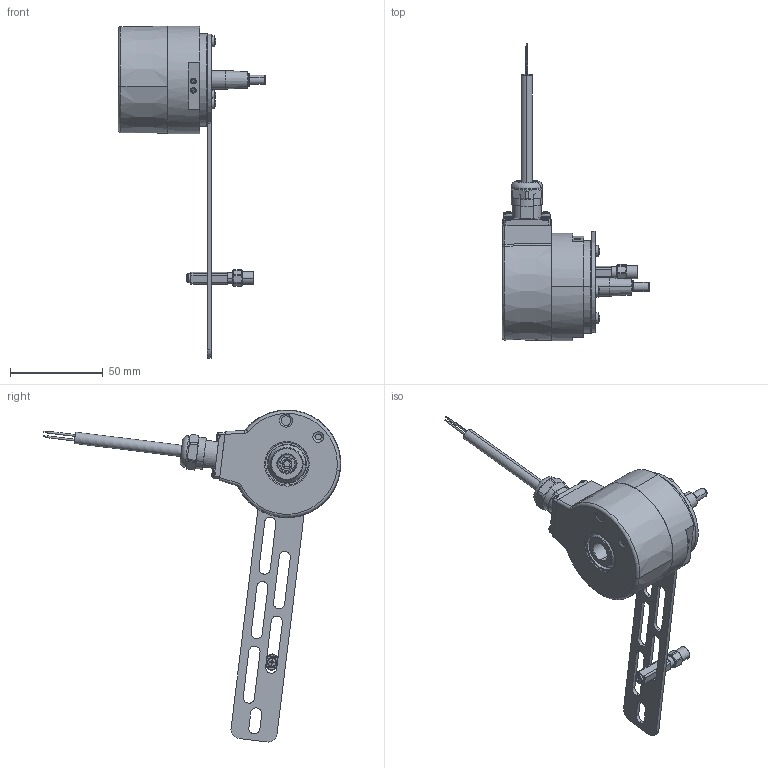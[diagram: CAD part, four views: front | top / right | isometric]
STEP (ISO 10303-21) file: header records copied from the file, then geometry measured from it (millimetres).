
FILE_DESCRIPTION (( 'STEP AP214' ), '1' );
FILE_NAME ('5834SIL.AKX2.XXXX.STEP', '2010-08-13T08:29:35', ( 'admin' ), ( 'Fritz Kübler GmbH' ), 'SwSTEP 2.0', 'SolidWorks 2009', '' );
FILE_SCHEMA (( 'AUTOMOTIVE_DESIGN' ));
Length unit declared in the file: millimetre
Products named in the file (1): 5834SIL.AKX2.XXXX
Bounding box: 79.5 x 160.21 x 178.83 mm (x, y, z)
Surface area: 34300.1 mm2 (no closed solid volume)
Topology: 0 solids, 25 shells, 391 faces, 1066 edges, 704 vertices
Faces by surface type: plane 157, cylinder 125, cone 59, torus 30, sphere 16, bspline 4
Entity records: 17421 total; most frequent: CARTESIAN_POINT 2916, DIRECTION 2337, ORIENTED_EDGE 1890, EDGE_CURVE 1066, AXIS2_PLACEMENT_3D 939, VERTEX_POINT 704, CIRCLE 551, VECTOR 459
